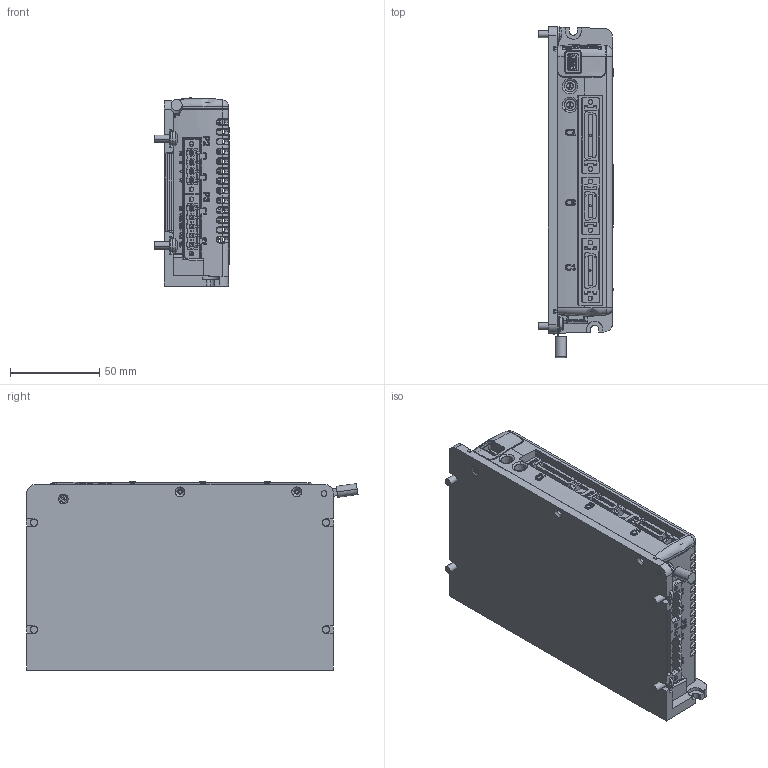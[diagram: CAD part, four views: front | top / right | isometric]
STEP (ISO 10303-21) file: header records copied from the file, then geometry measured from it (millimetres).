
FILE_DESCRIPTION (( 'STEP AP214' ), '1' );
FILE_NAME ('PRD9HCD03LC2.STEP', '2017-11-12T06:29:45', ( '' ), ( '' ), 'SwSTEP 2.0', 'SolidWorks 2016', '' );
FILE_SCHEMA (( 'AUTOMOTIVE_DESIGN' ));
Length unit declared in the file: millimetre
Products named in the file (35): CVRr9HLV0T01; PRD9HCD03LC2; PRDr9HCSE01z-02; MECr9HLV0001; RJ 45  TAIMAG  RD-SDRJLB-055TA; Amphenol UE25-BEX5-10X; PNLr9HLV0F01; SCRr000000M2-10; ROTARY SW  Grayhill 94HAB10RAT; RJ-22 Molex 432024101-1; PDR-2parts-SCREW  M4x5  BN 40100; CONr10000004-73; Lexan; plain washer grade a_din_Washer DIN 125 - A 4.3; CONr00000020-16; Conn. Samtec TST-105-04-X-D-RA-1; CONr10000005-46; LED DIGIT DISPLAY - NINGBO-FYS-3911AX_BX-XX; MECr9HLV0002-01; WSRr000000M2-03; CONr00000036-12; curved spring lock washer_din_Spring washer DIN 128 - A4; DEFAULT-1; SW  C&K  KSS241G-1; CONr00000004-S0; PRDr9HDLV00z-01; CONr00000026-25; SCRr00002210-00; PRDr9HPA03LA-01; HSKr9HLV0001_MOLD; 691317510005 housing; 691317510004 housing; pan head cross recess screw_din_ISO 7045 - M4 x 10 - Z --- 10N; Keystone Electronics 8213; PADr9HLV0001-00
Assembly tree (55 placements, depth 4):
  PRD9HCD03LC2
    HSKr9HLV0001_MOLD
    PADr9HLV0001-00
    PDR-2parts-SCREW  M4x5  BN 40100
    plain washer grade a_din_Washer DIN 125 - A 4.3  x4
    curved spring lock washer_din_Spring washer DIN 128 - A4  x4
    pan head cross recess screw_din_ISO 7045 - M4 x 10 - Z --- 10N  x4
    Lexan
    Keystone Electronics 8213
    PNLr9HLV0F01
    MECr9HLV0002-01
    CVRr9HLV0T01
    MECr9HLV0001
    PRDr9HPA03LA-01
      CONr00000004-S0
      CONr10000004-73
        DEFAULT-1  x4
        691317510004 housing
      CONr10000005-46
        DEFAULT-1  x5
        691317510005 housing
    PRDr9HDLV00z-01
      ROTARY SW  Grayhill 94HAB10RAT  x2
      LED DIGIT DISPLAY - NINGBO-FYS-3911AX_BX-XX
      Amphenol UE25-BEX5-10X
    SCRr000000M2-10  x2
    WSRr000000M2-03  x2
    PRDr9HCSE01z-02
      RJ-22 Molex 432024101-1
      SW  C&K  KSS241G-1
      Conn. Samtec TST-105-04-X-D-RA-1
      CONr00000036-12
      CONr00000026-25
      RJ 45  TAIMAG  RD-SDRJLB-055TA  x2
      CONr00000020-16
    SCRr00002210-00
Bounding box: 42 x 186.24 x 105.56 mm (x, y, z)
Volume: 200502.8 mm3; surface area: 147703.7 mm2
Topology: 59 solids, 61 shells, 6625 faces, 17798 edges, 11548 vertices
Faces by surface type: plane 4312, cylinder 1006, bspline 861, cone 288, torus 112, sphere 46
Entity records: 235693 total; most frequent: CARTESIAN_POINT 84104, ORIENTED_EDGE 33256, DIRECTION 25670, EDGE_CURVE 16632, VECTOR 11244, LINE 11244, VERTEX_POINT 10841, AXIS2_PLACEMENT_3D 7213
